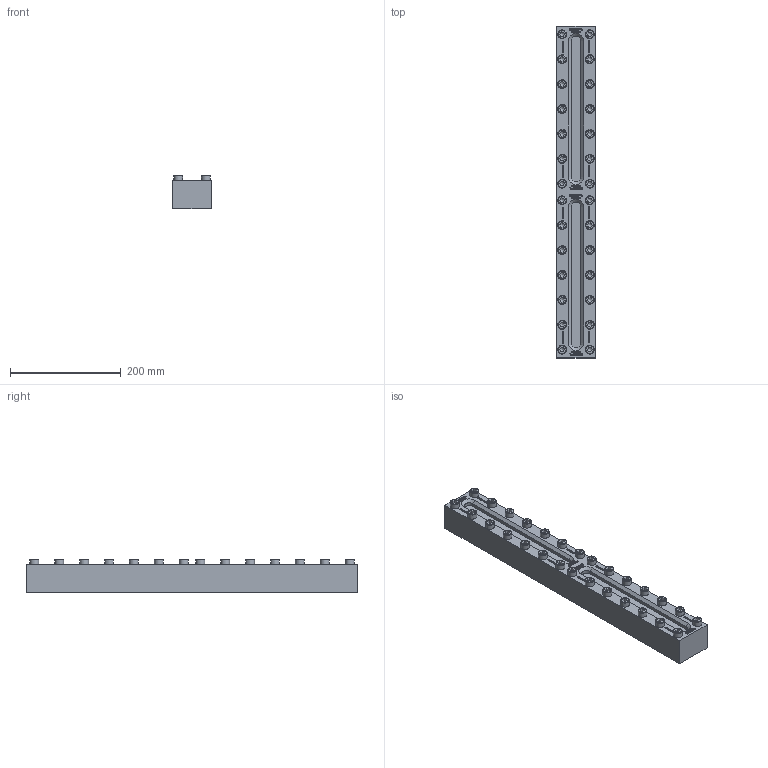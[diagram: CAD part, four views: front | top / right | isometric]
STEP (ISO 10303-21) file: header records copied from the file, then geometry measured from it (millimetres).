
FILE_DESCRIPTION(/* description */ (''),/* implementation_level */ '2;1');
FILE_NAME(/* name */ 'W:\Konstruktion_ACI\330\_Zeichnungen\STEP\ACI-330-600-16.stp',/* time_stamp */ '2022-03-01T17:19:00+01:00',/* author */ ('koslowksi'),/* organization */ (''),/* preprocessor_version */ 'ST-DEVELOPER v16.1',/* originating_system */ 'Autodesk Inventor 2016',/* authorisation */ '');
FILE_SCHEMA (('AUTOMOTIVE_DESIGN { 1 0 10303 214 3 1 1 }'));
Products named in the file (1): ACI-330-600-16.stp
Bounding box: 70 x 600 x 60.9 mm (x, y, z)
Volume: 1930570 mm3; surface area: 195503.6 mm2
Topology: 1 solids, 1 shells, 2526 faces, 6840 edges, 4548 vertices
Faces by surface type: plane 1794, bspline 636, cylinder 36, cone 32, torus 28
Full cylindrical faces by diameter (mm): 16 x28
Entity records: 83044 total; most frequent: CARTESIAN_POINT 22323, ORIENTED_EDGE 13400, DIRECTION 9146, EDGE_CURVE 6700, LINE 5156, VECTOR 5156, VERTEX_POINT 4492, EDGE_LOOP 2842
